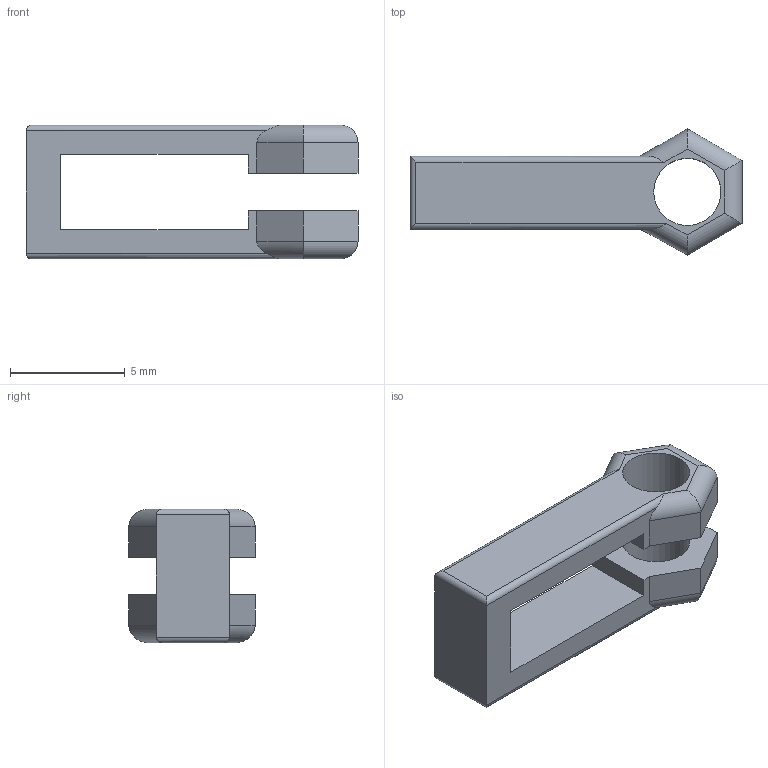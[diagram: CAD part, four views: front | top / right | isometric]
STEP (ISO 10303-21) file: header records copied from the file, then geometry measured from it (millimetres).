
FILE_DESCRIPTION (( 'STEP AP214' ), '1' );
FILE_NAME ('MagHold.STEP', '2021-11-17T20:32:01', ( '' ), ( '' ), 'SwSTEP 2.0', 'SolidWorks 2021', '' );
FILE_SCHEMA (( 'AUTOMOTIVE_DESIGN' ));
Length unit declared in the file: inch
Products named in the file (1): MagHold
Bounding box: 14.44 x 5.49 x 5.82 mm (x, y, z)
Volume: 144.6 mm3; surface area: 340.3 mm2
Topology: 1 solids, 1 shells, 42 faces, 108 edges, 68 vertices
Faces by surface type: plane 22, cylinder 20
Entity records: 1308 total; most frequent: CARTESIAN_POINT 291, ORIENTED_EDGE 216, DIRECTION 182, EDGE_CURVE 108, LINE 80, VECTOR 80, VERTEX_POINT 68, AXIS2_PLACEMENT_3D 51
